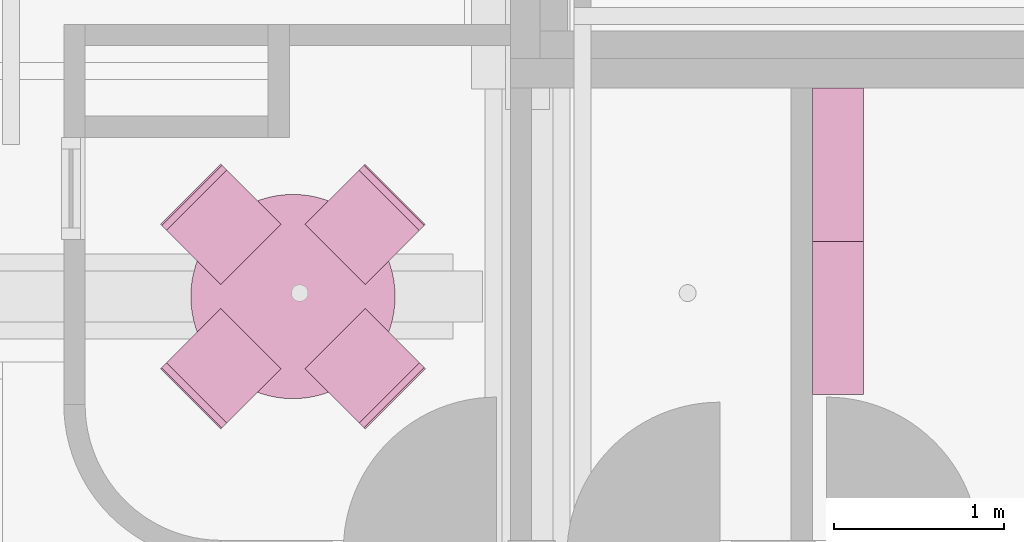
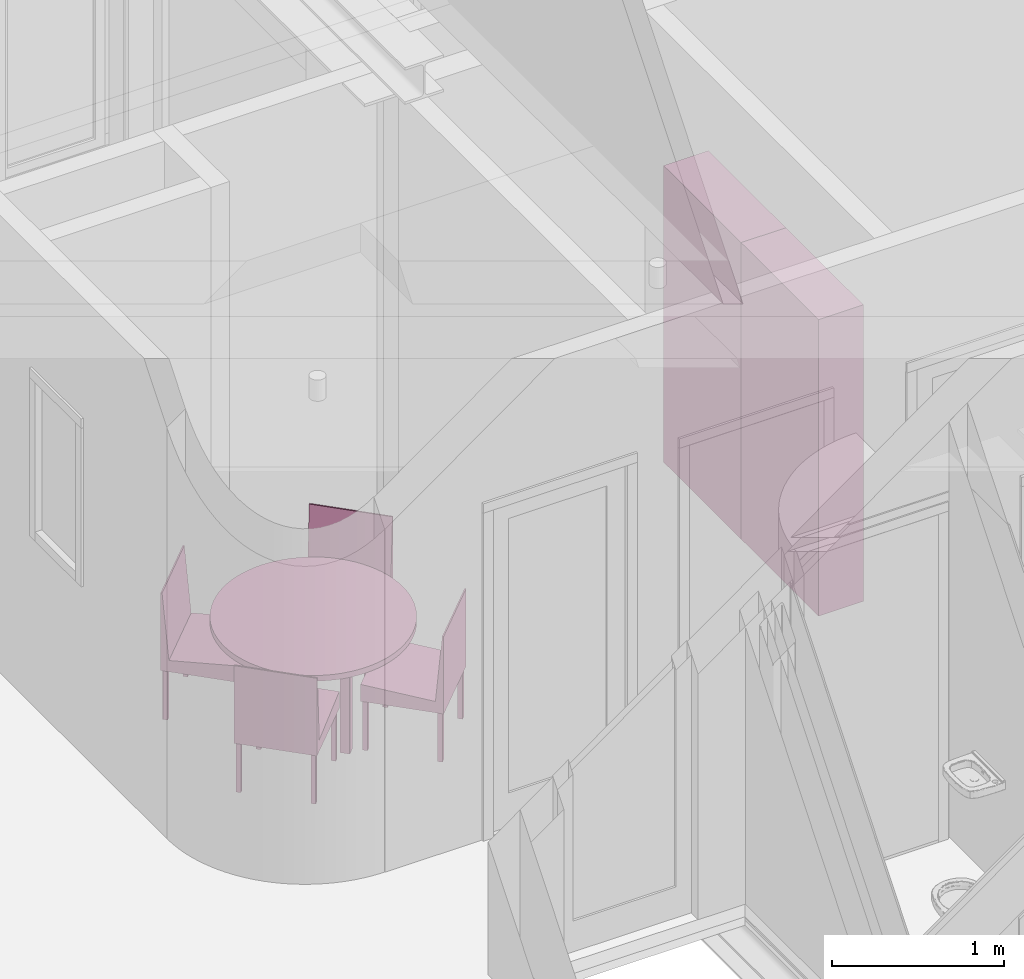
# One storey, part 92 of 128: 7 furnishings.
"""IFC2X3 building model written with IfcOpenShell, lengths in millimetres."""

from ifc_helpers import new_model, entity, si_unit, converted_unit, derived_unit, direction, frame, frame_2d, origin, origin_2d_with_axis, place, context, subcontext, project, spatial, polyline, circle_curve, parameter, trimmed, segment, composite_curve, rectangle, outline, extrude, faceted_brep, source, transform, mapped, material, type_object, type_shapes, element, save


model = new_model("IFC2X3")

# Units and contexts
model_context = context("Model", 3, precision=0.01, world=origin(), true_north=direction((6.123031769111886e-17, 1.0)))
body_context = subcontext(model_context, "Body", "Model", "MODEL_VIEW")
ifc_project = project(units=[si_unit("LENGTHUNIT", "METRE", prefix="MILLI"), si_unit("AREAUNIT", "SQUARE_METRE"), si_unit("VOLUMEUNIT", "CUBIC_METRE"), converted_unit("PLANEANGLEUNIT", "DEGREE", entity("IfcRatioMeasure", 0.017453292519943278), si_unit("PLANEANGLEUNIT", "RADIAN"), dimensions=[0, 0, 0, 0, 0, 0, 0]), si_unit("MASSUNIT", "GRAM", prefix="KILO"), derived_unit("MASSDENSITYUNIT", [(si_unit("MASSUNIT", "GRAM", prefix="KILO"), 1), (si_unit("LENGTHUNIT", "METRE"), -3)]), derived_unit("IONCONCENTRATIONUNIT", [(si_unit("MASSUNIT", "GRAM", prefix="KILO"), 1), (si_unit("LENGTHUNIT", "METRE"), -3)]), derived_unit("MOMENTOFINERTIAUNIT", [(si_unit("LENGTHUNIT", "METRE"), 4)]), si_unit("TIMEUNIT", "SECOND"), si_unit("FREQUENCYUNIT", "HERTZ"), si_unit("THERMODYNAMICTEMPERATUREUNIT", "DEGREE_CELSIUS"), derived_unit("THERMALTRANSMITTANCEUNIT", [(si_unit("MASSUNIT", "GRAM", prefix="KILO"), 1), (si_unit("THERMODYNAMICTEMPERATUREUNIT", "KELVIN"), -1), (si_unit("TIMEUNIT", "SECOND"), -3)]), derived_unit("THERMALCONDUCTANCEUNIT", [(si_unit("MASSUNIT", "GRAM", prefix="KILO"), 1), (si_unit("THERMODYNAMICTEMPERATUREUNIT", "KELVIN"), -1), (si_unit("TIMEUNIT", "SECOND"), -3), (si_unit("LENGTHUNIT", "METRE"), 1)]), derived_unit("VOLUMETRICFLOWRATEUNIT", [(si_unit("LENGTHUNIT", "METRE"), 3), (si_unit("TIMEUNIT", "SECOND"), -1)]), derived_unit("MASSFLOWRATEUNIT", [(si_unit("MASSUNIT", "GRAM", prefix="KILO"), 1), (si_unit("TIMEUNIT", "SECOND"), -1)]), derived_unit("ROTATIONALFREQUENCYUNIT", [(si_unit("TIMEUNIT", "SECOND"), -1)]), si_unit("ELECTRICCURRENTUNIT", "AMPERE"), si_unit("ELECTRICVOLTAGEUNIT", "VOLT"), si_unit("POWERUNIT", "WATT"), si_unit("FORCEUNIT", "NEWTON", prefix="KILO"), si_unit("ILLUMINANCEUNIT", "LUX"), si_unit("LUMINOUSFLUXUNIT", "LUMEN"), si_unit("LUMINOUSINTENSITYUNIT", "CANDELA"), derived_unit("USERDEFINED", [(si_unit("MASSUNIT", "GRAM", prefix="KILO"), -1), (si_unit("LENGTHUNIT", "METRE"), -2), (si_unit("TIMEUNIT", "SECOND"), 3), (si_unit("LUMINOUSFLUXUNIT", "LUMEN"), 1)]), derived_unit("USERDEFINED", [(si_unit("MASSUNIT", "GRAM", prefix="KILO"), 1), (si_unit("TIMEUNIT", "SECOND"), -3), (si_unit("LENGTHUNIT", "METRE"), 3), (si_unit("ELECTRICCURRENTUNIT", "AMPERE"), -2)]), derived_unit("SOUNDPOWERUNIT", [(si_unit("MASSUNIT", "GRAM", prefix="KILO"), 1), (si_unit("TIMEUNIT", "SECOND"), -3), (si_unit("LENGTHUNIT", "METRE"), 2)]), derived_unit("SOUNDPRESSUREUNIT", [(si_unit("MASSUNIT", "GRAM", prefix="KILO"), 1), (si_unit("LENGTHUNIT", "METRE"), -1), (si_unit("TIMEUNIT", "SECOND"), -2)]), derived_unit("LINEARVELOCITYUNIT", [(si_unit("LENGTHUNIT", "METRE"), 1), (si_unit("TIMEUNIT", "SECOND"), -1)]), si_unit("PRESSUREUNIT", "PASCAL"), derived_unit("USERDEFINED", [(si_unit("MASSUNIT", "GRAM", prefix="KILO"), 1), (si_unit("LENGTHUNIT", "METRE"), -2), (si_unit("TIMEUNIT", "SECOND"), -2)]), derived_unit("LINEARFORCEUNIT", [(si_unit("MASSUNIT", "GRAM", prefix="KILO"), 1), (si_unit("TIMEUNIT", "SECOND"), -2)]), derived_unit("PLANARFORCEUNIT", [(si_unit("MASSUNIT", "GRAM", prefix="KILO"), 1), (si_unit("LENGTHUNIT", "METRE"), -1), (si_unit("TIMEUNIT", "SECOND"), -2)]), derived_unit("SPECIFICHEATCAPACITYUNIT", [(si_unit("THERMODYNAMICTEMPERATUREUNIT", "KELVIN"), -1), (si_unit("LENGTHUNIT", "METRE"), 2), (si_unit("TIMEUNIT", "SECOND"), -2)]), derived_unit("HEATINGVALUEUNIT", [(si_unit("LENGTHUNIT", "METRE"), 2), (si_unit("TIMEUNIT", "SECOND"), -2)]), derived_unit("VAPORPERMEABILITYUNIT", [(si_unit("LENGTHUNIT", "METRE"), -1), (si_unit("TIMEUNIT", "SECOND"), 1)]), derived_unit("DYNAMICVISCOSITYUNIT", [(si_unit("MASSUNIT", "GRAM", prefix="KILO"), 1), (si_unit("TIMEUNIT", "SECOND"), -1), (si_unit("LENGTHUNIT", "METRE"), -1)]), derived_unit("THERMALEXPANSIONCOEFFICIENTUNIT", [(si_unit("THERMODYNAMICTEMPERATUREUNIT", "KELVIN"), -1)]), derived_unit("MODULUSOFELASTICITYUNIT", [(si_unit("MASSUNIT", "GRAM", prefix="KILO"), 1), (si_unit("LENGTHUNIT", "METRE"), -1), (si_unit("TIMEUNIT", "SECOND"), -2)]), derived_unit("ISOTHERMALMOISTURECAPACITYUNIT", [(si_unit("LENGTHUNIT", "METRE"), 3), (si_unit("MASSUNIT", "GRAM", prefix="KILO"), -1)]), derived_unit("MOISTUREDIFFUSIVITYUNIT", [(si_unit("TIMEUNIT", "SECOND"), -1), (si_unit("LENGTHUNIT", "METRE"), 2)])], contexts=[model_context])

# Site, building, storey, space
site_placement = place(None, frame((0.0, 300.0, 0.0)))
site = spatial("IfcSite", under=ifc_project, at=site_placement, Name="<Kadastrale nummers>", CompositionType="ELEMENT")
building_placement = place(site_placement, origin())
building = spatial("IfcBuilding", under=site, at=building_placement, CompositionType="ELEMENT")
storey_placement = place(building_placement, frame((0.0, 0.0, 3560.0000331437)))
storey = spatial("IfcBuildingStorey", under=building, at=storey_placement, Name="01 eerste verdieping", CompositionType="ELEMENT", Elevation=3560.0000331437)
space_1_placement = place(storey_placement, origin())
space_1 = spatial("IfcSpace", under=storey, at=space_1_placement, Name="1.16", CompositionType="ELEMENT", InteriorOrExteriorSpace="INTERNAL")

# Furnishings
ifc_material = material(Name="ISR_RAL 9010")
furniture_type_1 = type_object("IfcFurnitureType", Name="NLRS_82_FU_LB_kast boeken_gen_ASN:boekenkast gen bxhxd 900 x 2100 x 300", material=ifc_material)
shared_shape_1 = source(origin(), body_context, "Body", "Brep", [
    faceted_brep([(468.95565431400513, -18.0, 1620.0), (-395.04434568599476, -18.0, 1620.0), (-395.0443456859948, -268.0, 1620.0), (468.95565431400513, -268.0, 1620.0), (468.95565431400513, -18.0, 1600.0), (468.95565431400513, -268.0, 1600.0), (-395.0443456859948, -268.0, 1600.0), (-395.04434568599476, -18.0, 1600.0)], [[[0, 1, 2, 3]], [[4, 5, 6, 7]], [[1, 0, 4, 7]], [[2, 1, 7, 6]], [[3, 2, 6, 5]], [[0, 3, 5, 4]]]),
    faceted_brep([(468.95565431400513, -18.0, 1200.0), (-395.04434568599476, -18.0, 1200.0), (-395.0443456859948, -268.0, 1200.0), (468.95565431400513, -268.0, 1200.0), (468.95565431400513, -18.0, 1180.0), (468.95565431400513, -268.0, 1180.0), (-395.0443456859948, -268.0, 1180.0), (-395.04434568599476, -18.0, 1180.0)], [[[0, 1, 2, 3]], [[4, 5, 6, 7]], [[1, 0, 4, 7]], [[2, 1, 7, 6]], [[3, 2, 6, 5]], [[0, 3, 5, 4]]]),
    faceted_brep([(468.95565431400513, -18.0, 400.0), (-395.0443456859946, -18.0, 400.0), (-395.0443456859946, -268.0, 400.0), (468.95565431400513, -268.0, 400.0), (468.95565431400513, -18.0, 380.0), (468.95565431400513, -268.0, 380.0), (-395.0443456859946, -268.0, 380.0), (-395.0443456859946, -18.0, 380.0)], [[[0, 1, 2, 3]], [[4, 5, 6, 7]], [[1, 0, 4, 7]], [[2, 1, 7, 6]], [[3, 2, 6, 5]], [[0, 3, 5, 4]]]),
    faceted_brep([(468.95565431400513, -18.0, 800.0), (-395.04434568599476, -18.0, 800.0), (-395.0443456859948, -268.0, 800.0), (468.95565431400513, -268.0, 800.0), (468.95565431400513, -18.0, 780.0), (468.95565431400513, -268.0, 780.0), (-395.0443456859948, -268.0, 780.0), (-395.04434568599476, -18.0, 780.0)], [[[0, 1, 2, 3]], [[4, 5, 6, 7]], [[1, 0, 4, 7]], [[2, 1, 7, 6]], [[3, 2, 6, 5]], [[0, 3, 5, 4]]]),
    faceted_brep([(486.9556543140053, 0.0, 2100.0), (-413.04434568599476, 0.0, 2100.0), (-413.0443456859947, -300.0, 2100.0), (486.9556543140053, -300.0, 2100.0), (486.9556543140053, 0.0, 0.0), (486.9556543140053, -300.0, 0.0), (-413.0443456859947, -300.0, 0.0), (-413.04434568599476, 0.0, 0.0), (-395.04434568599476, -300.0, 2082.0), (468.95565431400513, -300.0, 2082.0), (468.95565431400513, -300.0, 68.0), (-395.0443456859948, -300.0, 68.0), (468.95565431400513, -18.0, 2082.0), (-395.04434568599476, -18.0, 2082.0), (468.95565431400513, -18.0, 68.0), (-395.04434568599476, -18.0, 68.0)], [[[0, 1, 2, 3]], [[4, 5, 6, 7]], [[1, 0, 4, 7]], [[2, 1, 7, 6]], [[3, 2, 6, 5], [8, 9, 10, 11]], [[0, 3, 5, 4]], [[12, 9, 8, 13]], [[14, 15, 11, 10]], [[12, 13, 15, 14]], [[13, 8, 11, 15]], [[9, 12, 14, 10]]]),
])
type_shapes(furniture_type_1, [shared_shape_1])
for number, where, z_axis, x_axis in (
    (1, (43075.0, 45138.04434568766, 90.00000187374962), (0.0, 0.0, 1.0), (0.0, 1.0, 0.0)),
    (2, (43075.0, 46038.04434568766, 90.00000187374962), (0.0, 0.0, 1.0), (0.0, 1.0, 0.0)),
):
    element("IfcFurnishingElement", number, at=place(space_1_placement, frame(where, z_axis=z_axis, x_axis=x_axis)), inside=space_1, type_object=furniture_type_1, material=ifc_material, Name="NLRS_82_FU_LB_kast boeken_gen_ASN:boekenkast gen bxhxd 900 x 2100 x 300", ObjectType="NLRS_82_FU_LB_kast boeken_gen_ASN:boekenkast gen bxhxd 900 x 2100 x 300", context=body_context, shape_type="MappedRepresentation", body=[
        mapped(shared_shape_1, transform((0.0, 0.0, 0.0), scale=1.0)),
    ])

# Space
space_2_placement = place(storey_placement, origin())
space_2 = spatial("IfcSpace", under=storey, at=space_2_placement, Name="1.14", CompositionType="ELEMENT", InteriorOrExteriorSpace="INTERNAL")

# Furnishings
furniture_type_2 = type_object("IfcFurnitureType", Name="NLRS_82_FU_LB_tafel 1_gen_ASN:eettafel rond gen d 1200", material=ifc_material)
shared_shape_2 = source(origin(), body_context, "Body", "SweptSolid", [
    extrude(outline(composite_curve([segment(polyline([(-1.0, -600.0), (1.0, -600.0)]), True, "CONTINUOUS"), segment(trimmed(circle_curve(frame_2d((1.0, -1.0), x_axis=(1.0, 0.0)), 599.0), [parameter(269.99999999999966)], [parameter(359.99999999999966)], True, "PARAMETER"), True, "CONTINUOUS"), segment(polyline([(600.0, -1.0), (600.0, 1.0)]), True, "CONTINUOUS"), segment(trimmed(circle_curve(frame_2d((1.0, 1.0), x_axis=(1.0, 0.0)), 599.0), [parameter(359.9999999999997)], [parameter(89.99999999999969)], True, "PARAMETER"), True, "CONTINUOUS"), segment(polyline([(1.0, 600.0), (-1.0, 600.0)]), True, "CONTINUOUS"), segment(trimmed(circle_curve(frame_2d((-1.0, 1.0), x_axis=(1.0, 0.0)), 599.0), [parameter(89.99999999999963)], [parameter(179.99999999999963)], True, "PARAMETER"), True, "CONTINUOUS"), segment(polyline([(-600.0, 1.0), (-600.0, -1.0)]), True, "CONTINUOUS"), segment(trimmed(circle_curve(frame_2d((-1.0, -1.0), x_axis=(1.0, 0.0)), 599.0), [parameter(180.0)], [parameter(269.99999999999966)], True, "PARAMETER"), True, "CONTINUOUS")], self_intersect=False)), frame((57.87769239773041, 12.97177785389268, 680.0), z_axis=(0.0, 0.0, 1.0), x_axis=(-1.0, 0.0, 0.0)), (0.0, 0.0, 1.0), 39.9999999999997),
    extrude(outline(composite_curve([segment(polyline([(-28.0, -30.0), (28.0, -30.0)]), True, "CONTINUOUS"), segment(trimmed(circle_curve(frame_2d((28.0, -28.0), x_axis=(-1.0, 0.0)), 2.0), [parameter(90.00000000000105)], [parameter(180.00000000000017)], True, "PARAMETER"), True, "CONTINUOUS"), segment(polyline([(30.0, -28.0), (30.0, 28.0)]), True, "CONTINUOUS"), segment(trimmed(circle_curve(frame_2d((28.0, 28.0), x_axis=(-1.0, 0.0)), 2.0), [parameter(180.00000000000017)], [parameter(269.9999999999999)], True, "PARAMETER"), True, "CONTINUOUS"), segment(polyline([(28.0, 30.0), (-28.0, 30.0)]), True, "CONTINUOUS"), segment(trimmed(circle_curve(frame_2d((-28.0, 28.0), x_axis=(-1.0, 0.0)), 2.0), [parameter(269.9999999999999)], [parameter(0.0)], True, "PARAMETER"), True, "CONTINUOUS"), segment(polyline([(-30.0, 28.0), (-30.0, -28.0)]), True, "CONTINUOUS"), segment(trimmed(circle_curve(frame_2d((-28.0, -28.0), x_axis=(-1.0, 0.0)), 2.0), [parameter(0.0)], [parameter(90.00000000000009)], True, "PARAMETER"), True, "CONTINUOUS")], self_intersect=False)), frame((327.87769239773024, 282.97177785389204, 0.0), z_axis=(0.0, 0.0, 1.0), x_axis=(-1.0, 0.0, 0.0)), (0.0, 0.0, 1.0), 679.9999999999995),
    extrude(outline(composite_curve([segment(polyline([(-28.0, -30.0), (28.0, -30.0)]), True, "CONTINUOUS"), segment(trimmed(circle_curve(frame_2d((28.0, -28.0), x_axis=(-1.0, 0.0)), 2.0), [parameter(90.00000000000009)], [parameter(180.00000000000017)], True, "PARAMETER"), True, "CONTINUOUS"), segment(polyline([(30.0, -28.0), (30.0, 28.0)]), True, "CONTINUOUS"), segment(trimmed(circle_curve(frame_2d((28.0, 28.0), x_axis=(-1.0, 0.0)), 2.0), [parameter(180.00000000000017)], [parameter(269.9999999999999)], True, "PARAMETER"), True, "CONTINUOUS"), segment(polyline([(28.0, 30.0), (-28.0, 30.0)]), True, "CONTINUOUS"), segment(trimmed(circle_curve(frame_2d((-28.0, 28.0), x_axis=(-1.0, 0.0)), 2.0), [parameter(269.9999999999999)], [parameter(0.0)], True, "PARAMETER"), True, "CONTINUOUS"), segment(polyline([(-30.0, 28.0), (-30.0, -28.0)]), True, "CONTINUOUS"), segment(trimmed(circle_curve(frame_2d((-28.0, -28.0), x_axis=(-1.0, 0.0)), 2.0), [parameter(0.0)], [parameter(90.00000000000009)], True, "PARAMETER"), True, "CONTINUOUS")], self_intersect=False)), frame((-212.1223076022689, 282.9717778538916, 0.0), z_axis=(0.0, 0.0, 1.0), x_axis=(-1.0, 0.0, 0.0)), (0.0, 0.0, 1.0), 679.9999999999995),
    extrude(outline(composite_curve([segment(polyline([(-28.0, -30.0), (28.0, -30.0)]), True, "CONTINUOUS"), segment(trimmed(circle_curve(frame_2d((28.0, -28.0), x_axis=(-1.0, 0.0)), 2.0), [parameter(90.00000000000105)], [parameter(180.00000000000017)], True, "PARAMETER"), True, "CONTINUOUS"), segment(polyline([(30.0, -28.0), (30.0, 28.0)]), True, "CONTINUOUS"), segment(trimmed(circle_curve(frame_2d((28.0, 28.0), x_axis=(-1.0, 0.0)), 2.0), [parameter(180.00000000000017)], [parameter(269.9999999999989)], True, "PARAMETER"), True, "CONTINUOUS"), segment(polyline([(28.0, 30.0), (-28.0, 30.0)]), True, "CONTINUOUS"), segment(trimmed(circle_curve(frame_2d((-28.0, 28.0), x_axis=(-1.0, 0.0)), 2.0), [parameter(269.9999999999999)], [parameter(0.0)], True, "PARAMETER"), True, "CONTINUOUS"), segment(polyline([(-30.0, 28.0), (-30.0, -28.0)]), True, "CONTINUOUS"), segment(trimmed(circle_curve(frame_2d((-28.0, -28.0), x_axis=(-1.0, 0.0)), 2.0), [parameter(0.0)], [parameter(90.00000000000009)], True, "PARAMETER"), True, "CONTINUOUS")], self_intersect=False)), frame((327.87769239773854, -257.0282221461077, 0.0), z_axis=(0.0, 0.0, 1.0), x_axis=(-1.0, 0.0, 0.0)), (0.0, 0.0, 1.0), 679.9999999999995),
    extrude(outline(composite_curve([segment(polyline([(-28.0, -30.0), (28.0, -30.0)]), True, "CONTINUOUS"), segment(trimmed(circle_curve(frame_2d((28.0, -28.0), x_axis=(-1.0, 0.0)), 2.0), [parameter(90.00000000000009)], [parameter(179.9999999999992)], True, "PARAMETER"), True, "CONTINUOUS"), segment(polyline([(30.0, -28.0), (30.0, 28.0)]), True, "CONTINUOUS"), segment(trimmed(circle_curve(frame_2d((28.0, 28.0), x_axis=(-1.0, 0.0)), 2.0), [parameter(180.00000000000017)], [parameter(269.9999999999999)], True, "PARAMETER"), True, "CONTINUOUS"), segment(polyline([(28.0, 30.0), (-28.0, 30.0)]), True, "CONTINUOUS"), segment(trimmed(circle_curve(frame_2d((-28.0, 28.0), x_axis=(-1.0, 0.0)), 2.0), [parameter(269.9999999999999)], [parameter(359.99999999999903)], True, "PARAMETER"), True, "CONTINUOUS"), segment(polyline([(-30.0, 28.0), (-30.0, -28.0)]), True, "CONTINUOUS"), segment(trimmed(circle_curve(frame_2d((-28.0, -28.0), x_axis=(-1.0, 0.0)), 2.0), [parameter(0.0)], [parameter(90.00000000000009)], True, "PARAMETER"), True, "CONTINUOUS")], self_intersect=False)), frame((-212.12230760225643, -257.02822214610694, 0.0), z_axis=(0.0, 0.0, 1.0), x_axis=(-1.0, 0.0, 0.0)), (0.0, 0.0, 1.0), 679.9999999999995),
    extrude(rectangle(XDim=479.99999999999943, YDim=55.99999999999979, at=frame_2d((1.4210854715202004e-14, 3.375077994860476e-14), x_axis=(1.0, 0.0))), frame((57.87769239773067, 282.9717778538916, 650.0)), (0.0, 0.0, 1.0), 30.000000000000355),
    extrude(rectangle(XDim=480.0000000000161, YDim=55.99999999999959, at=origin_2d_with_axis()), frame((57.87769239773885, -257.0282221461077, 650.0)), (0.0, 0.0, 1.0), 30.000000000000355),
    extrude(rectangle(XDim=479.99999999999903, YDim=55.99999999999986, at=origin_2d_with_axis()), frame((-212.12230760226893, 12.971777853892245, 650.0), z_axis=(0.0, 0.0, 1.0), x_axis=(0.0, -1.0, 0.0)), (0.0, 0.0, 1.0), 30.000000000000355),
    extrude(rectangle(XDim=480.0000000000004, YDim=55.999999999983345, at=origin_2d_with_axis()), frame((327.87769239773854, 12.971777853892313, 650.0), z_axis=(0.0, 0.0, 1.0), x_axis=(0.0, -1.0, 0.0)), (0.0, 0.0, 1.0), 30.000000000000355),
])
type_shapes(furniture_type_2, [shared_shape_2])
furnishing_placement = place(space_2_placement, frame((39989.969530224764, 45249.90185914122, 90.00000187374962), z_axis=(0.0, 0.0, 1.0), x_axis=(0.7071067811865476, 0.7071067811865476, 0.0)))
element("IfcFurnishingElement", 3, at=furnishing_placement, inside=space_2, type_object=furniture_type_2, material=ifc_material, Name="NLRS_82_FU_LB_tafel 1_gen_ASN:eettafel rond gen d 1200", ObjectType="NLRS_82_FU_LB_tafel 1_gen_ASN:eettafel rond gen d 1200", context=body_context, shape_type="MappedRepresentation", body=[
    mapped(shared_shape_2, transform((0.0, 0.0, 0.0), scale=1.0)),
])
furniture_type_3 = type_object("IfcFurnitureType", Name="NLRS_82_FU_LB_zitmeubel_gen_ASN:stoel", material=ifc_material)
shared_shape_3 = source(origin(), body_context, "Body", "SweptSolid", [
    extrude(outline(polyline([(-176.4800546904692, -333.4383502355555), (-167.5997265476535, -333.4383502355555), (-126.48005469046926, 136.5616497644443), (323.5199453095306, 97.19175117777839), (323.51994530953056, 216.56164976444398), (-176.4800546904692, 216.56164976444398), (-176.4800546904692, -333.4383502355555)])), frame((-192.12230760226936, 86.49172316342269, 566.5616497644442), z_axis=(1.0, 0.0, 0.0), x_axis=(0.0, -1.0, 0.0)), (0.0, 0.0, 1.0), 499.9999999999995),
    extrude(outline(composite_curve([segment(polyline([(-14.0, -15.0), (14.0, -15.0)]), True, "CONTINUOUS"), segment(trimmed(circle_curve(frame_2d((14.0, -14.0), x_axis=(-1.0, 0.0)), 1.0), [parameter(90.00000000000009)], [parameter(180.00000000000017)], True, "PARAMETER"), True, "CONTINUOUS"), segment(polyline([(15.0, -14.0), (15.0, 14.0)]), True, "CONTINUOUS"), segment(trimmed(circle_curve(frame_2d((14.0, 14.0), x_axis=(-1.0, 0.0)), 1.0), [parameter(180.00000000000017)], [parameter(270.0000000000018)], True, "PARAMETER"), True, "CONTINUOUS"), segment(polyline([(14.0, 15.0), (-14.0, 15.0)]), True, "CONTINUOUS"), segment(trimmed(circle_curve(frame_2d((-14.0, 14.0), x_axis=(-1.0, 0.0)), 1.0), [parameter(269.9999999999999)], [parameter(0.0)], True, "PARAMETER"), True, "CONTINUOUS"), segment(polyline([(-15.0, 14.0), (-15.0, -14.0)]), True, "CONTINUOUS"), segment(trimmed(circle_curve(frame_2d((-14.0, -14.0), x_axis=(-1.0, 0.0)), 1.0), [parameter(0.0)], [parameter(90.00000000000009)], True, "PARAMETER"), True, "CONTINUOUS")], self_intersect=False)), frame((282.87769239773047, 237.97177785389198, 0.0), z_axis=(0.0, 0.0, 1.0), x_axis=(-1.0, 0.0, 0.0)), (0.0, 0.0, 1.0), 350.00000000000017),
    extrude(outline(composite_curve([segment(polyline([(-14.0, -15.0), (14.0, -15.0)]), True, "CONTINUOUS"), segment(trimmed(circle_curve(frame_2d((14.0, -14.0), x_axis=(-1.0, 0.0)), 1.0), [parameter(90.00000000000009)], [parameter(180.00000000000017)], True, "PARAMETER"), True, "CONTINUOUS"), segment(polyline([(15.0, -14.0), (15.0, 14.0)]), True, "CONTINUOUS"), segment(trimmed(circle_curve(frame_2d((14.0, 14.0), x_axis=(-1.0, 0.0)), 1.0), [parameter(180.00000000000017)], [parameter(269.9999999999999)], True, "PARAMETER"), True, "CONTINUOUS"), segment(polyline([(14.0, 15.0), (-14.0, 15.0)]), True, "CONTINUOUS"), segment(trimmed(circle_curve(frame_2d((-14.0, 14.0), x_axis=(-1.0, 0.0)), 1.0), [parameter(269.9999999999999)], [parameter(0.0)], True, "PARAMETER"), True, "CONTINUOUS"), segment(polyline([(-15.0, 14.0), (-15.0, -14.0)]), True, "CONTINUOUS"), segment(trimmed(circle_curve(frame_2d((-14.0, -14.0), x_axis=(-1.0, 0.0)), 1.0), [parameter(0.0)], [parameter(90.00000000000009)], True, "PARAMETER"), True, "CONTINUOUS")], self_intersect=False)), frame((-167.12230760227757, 237.97177785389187, 0.0), z_axis=(0.0, 0.0, 1.0), x_axis=(-1.0, 0.0, 0.0)), (0.0, 0.0, 1.0), 350.00000000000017),
    extrude(outline(composite_curve([segment(polyline([(-14.0, -15.0), (14.0, -15.0)]), True, "CONTINUOUS"), segment(trimmed(circle_curve(frame_2d((14.0, -14.0), x_axis=(-1.0, 0.0)), 1.0), [parameter(90.00000000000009)], [parameter(179.99999999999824)], True, "PARAMETER"), True, "CONTINUOUS"), segment(polyline([(15.0, -14.0), (15.0, 14.0)]), True, "CONTINUOUS"), segment(trimmed(circle_curve(frame_2d((14.0, 14.0), x_axis=(-1.0, 0.0)), 1.0), [parameter(179.99999999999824)], [parameter(269.9999999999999)], True, "PARAMETER"), True, "CONTINUOUS"), segment(polyline([(14.0, 15.0), (-14.0, 15.0)]), True, "CONTINUOUS"), segment(trimmed(circle_curve(frame_2d((-14.0, 14.0), x_axis=(-1.0, 0.0)), 1.0), [parameter(269.9999999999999)], [parameter(1.93377724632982e-12)], True, "PARAMETER"), True, "CONTINUOUS"), segment(polyline([(-15.0, 14.0), (-15.0, -14.0)]), True, "CONTINUOUS"), segment(trimmed(circle_curve(frame_2d((-14.0, -14.0), x_axis=(-1.0, 0.0)), 1.0), [parameter(0.0)], [parameter(90.00000000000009)], True, "PARAMETER"), True, "CONTINUOUS")], self_intersect=False)), frame((-167.12230760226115, -212.02822214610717, 0.0), z_axis=(0.0, 0.0, 1.0), x_axis=(-1.0, 0.0, 0.0)), (0.0, 0.0, 1.0), 350.00000000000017),
    extrude(outline(composite_curve([segment(polyline([(-14.0, -15.0), (14.0, -15.0)]), True, "CONTINUOUS"), segment(trimmed(circle_curve(frame_2d((14.0, -14.0), x_axis=(-1.0, 0.0)), 1.0), [parameter(89.99999999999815)], [parameter(179.99999999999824)], True, "PARAMETER"), True, "CONTINUOUS"), segment(polyline([(15.0, -14.0), (15.0, 14.0)]), True, "CONTINUOUS"), segment(trimmed(circle_curve(frame_2d((14.0, 14.0), x_axis=(-1.0, 0.0)), 1.0), [parameter(179.99999999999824)], [parameter(270.0000000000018)], True, "PARAMETER"), True, "CONTINUOUS"), segment(polyline([(14.0, 15.0), (-14.0, 15.0)]), True, "CONTINUOUS"), segment(trimmed(circle_curve(frame_2d((-14.0, 14.0), x_axis=(-1.0, 0.0)), 1.0), [parameter(269.9999999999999)], [parameter(1.93377724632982e-12)], True, "PARAMETER"), True, "CONTINUOUS"), segment(polyline([(-15.0, 14.0), (-15.0, -14.0)]), True, "CONTINUOUS"), segment(trimmed(circle_curve(frame_2d((-14.0, -14.0), x_axis=(-1.0, 0.0)), 1.0), [parameter(1.93377724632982e-12)], [parameter(90.00000000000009)], True, "PARAMETER"), True, "CONTINUOUS")], self_intersect=False)), frame((282.8776923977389, -212.0282221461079, 0.0), z_axis=(0.0, 0.0, 1.0), x_axis=(-1.0, 0.0, 0.0)), (0.0, 0.0, 1.0), 350.00000000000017),
])
type_shapes(furniture_type_3, [shared_shape_3])
for number, where, z_axis, x_axis in (
    (4, (40478.03304553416, 44925.54117892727, 90.00000187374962), (0.0, 0.0, 1.0), (-0.7071067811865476, -0.7071067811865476, 0.0)),
    (5, (39565.41256829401, 45674.45882107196, 90.00000187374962), (0.0, 0.0, 1.0), (0.7071067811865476, 0.7071067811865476, 0.0)),
):
    element("IfcFurnishingElement", number, at=place(space_2_placement, frame(where, z_axis=z_axis, x_axis=x_axis)), inside=space_2, type_object=furniture_type_3, material=ifc_material, Name="NLRS_82_FU_LB_zitmeubel_gen_ASN:stoel", ObjectType="NLRS_82_FU_LB_zitmeubel_gen_ASN:stoel", context=body_context, shape_type="MappedRepresentation", body=[
        mapped(shared_shape_3, transform((0.0, 0.0, 0.0), scale=1.0)),
    ])
furniture_type_4 = type_object("IfcFurnitureType", Name="NLRS_82_FU_LB_zitmeubel_gen_ASN:stoel", material=ifc_material)
shared_shape_4 = source(origin(), body_context, "Body", "SweptSolid", [
    extrude(outline(polyline([(-333.4383502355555, -176.4800546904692), (216.56164976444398, -176.4800546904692), (216.56164976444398, 323.51994530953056), (97.19175117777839, 323.51994530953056), (136.5616497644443, -126.48005469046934), (-333.4383502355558, -167.5997265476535), (-333.4383502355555, -176.4800546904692)])), frame((-192.12230760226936, -86.49172316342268, 566.5616497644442), z_axis=(1.0, 0.0, 0.0), x_axis=(0.0, 0.0, -1.0)), (0.0, 0.0, 1.0), 499.9999999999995),
    extrude(outline(composite_curve([segment(trimmed(circle_curve(frame_2d((14.0, -14.0), x_axis=(1.0, 0.0)), 1.0), [parameter(269.9999999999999)], [parameter(0.0)], True, "PARAMETER"), True, "CONTINUOUS"), segment(polyline([(15.0, -14.0), (15.0, 14.0)]), True, "CONTINUOUS"), segment(trimmed(circle_curve(frame_2d((14.0, 14.0), x_axis=(1.0, 0.0)), 1.0), [parameter(0.0)], [parameter(90.00000000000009)], True, "PARAMETER"), True, "CONTINUOUS"), segment(polyline([(14.0, 15.0), (-14.0, 15.0)]), True, "CONTINUOUS"), segment(trimmed(circle_curve(frame_2d((-14.0, 14.0), x_axis=(1.0, 0.0)), 1.0), [parameter(89.99999999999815)], [parameter(179.99999999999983)], True, "PARAMETER"), True, "CONTINUOUS"), segment(polyline([(-15.0, 14.0), (-15.0, -14.0)]), True, "CONTINUOUS"), segment(trimmed(circle_curve(frame_2d((-14.0, -14.0), x_axis=(1.0, 0.0)), 1.0), [parameter(179.99999999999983)], [parameter(269.9999999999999)], True, "PARAMETER"), True, "CONTINUOUS"), segment(polyline([(-14.0, -15.0), (14.0, -15.0)]), True, "CONTINUOUS")], self_intersect=False)), frame((282.8776923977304, -237.97177785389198, 0.0)), (0.0, 0.0, 1.0), 350.00000000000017),
    extrude(outline(composite_curve([segment(trimmed(circle_curve(frame_2d((14.0, -14.0), x_axis=(1.0, 0.0)), 1.0), [parameter(269.9999999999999)], [parameter(0.0)], True, "PARAMETER"), True, "CONTINUOUS"), segment(polyline([(15.0, -14.0), (15.0, 14.0)]), True, "CONTINUOUS"), segment(trimmed(circle_curve(frame_2d((14.0, 14.0), x_axis=(1.0, 0.0)), 1.0), [parameter(0.0)], [parameter(90.00000000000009)], True, "PARAMETER"), True, "CONTINUOUS"), segment(polyline([(14.0, 15.0), (-14.0, 15.0)]), True, "CONTINUOUS"), segment(trimmed(circle_curve(frame_2d((-14.0, 14.0), x_axis=(1.0, 0.0)), 1.0), [parameter(90.00000000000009)], [parameter(179.99999999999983)], True, "PARAMETER"), True, "CONTINUOUS"), segment(polyline([(-15.0, 14.0), (-15.0, -14.0)]), True, "CONTINUOUS"), segment(trimmed(circle_curve(frame_2d((-14.0, -14.0), x_axis=(1.0, 0.0)), 1.0), [parameter(179.99999999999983)], [parameter(269.9999999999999)], True, "PARAMETER"), True, "CONTINUOUS"), segment(polyline([(-14.0, -15.0), (14.0, -15.0)]), True, "CONTINUOUS")], self_intersect=False)), frame((-167.12230760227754, -237.9717778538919, 0.0)), (0.0, 0.0, 1.0), 350.00000000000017),
    extrude(outline(composite_curve([segment(trimmed(circle_curve(frame_2d((14.0, -14.0), x_axis=(1.0, 0.0)), 1.0), [parameter(269.9999999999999)], [parameter(0.0)], True, "PARAMETER"), True, "CONTINUOUS"), segment(polyline([(15.0, -14.0), (15.0, 14.0)]), True, "CONTINUOUS"), segment(trimmed(circle_curve(frame_2d((14.0, 14.0), x_axis=(1.0, 0.0)), 1.0), [parameter(359.99999999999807)], [parameter(90.00000000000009)], True, "PARAMETER"), True, "CONTINUOUS"), segment(polyline([(14.0, 15.0), (-14.0, 15.0)]), True, "CONTINUOUS"), segment(trimmed(circle_curve(frame_2d((-14.0, 14.0), x_axis=(1.0, 0.0)), 1.0), [parameter(90.00000000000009)], [parameter(180.00000000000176)], True, "PARAMETER"), True, "CONTINUOUS"), segment(polyline([(-15.0, 14.0), (-15.0, -14.0)]), True, "CONTINUOUS"), segment(trimmed(circle_curve(frame_2d((-14.0, -14.0), x_axis=(1.0, 0.0)), 1.0), [parameter(180.00000000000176)], [parameter(269.9999999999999)], True, "PARAMETER"), True, "CONTINUOUS"), segment(polyline([(-14.0, -15.0), (14.0, -15.0)]), True, "CONTINUOUS")], self_intersect=False)), frame((-167.12230760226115, 212.0282221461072, 0.0)), (0.0, 0.0, 1.0), 350.00000000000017),
    extrude(outline(composite_curve([segment(trimmed(circle_curve(frame_2d((14.0, -14.0), x_axis=(1.0, 0.0)), 1.0), [parameter(269.9999999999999)], [parameter(359.99999999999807)], True, "PARAMETER"), True, "CONTINUOUS"), segment(polyline([(15.0, -14.0), (15.0, 14.0)]), True, "CONTINUOUS"), segment(trimmed(circle_curve(frame_2d((14.0, 14.0), x_axis=(1.0, 0.0)), 1.0), [parameter(359.99999999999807)], [parameter(90.00000000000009)], True, "PARAMETER"), True, "CONTINUOUS"), segment(polyline([(14.0, 15.0), (-14.0, 15.0)]), True, "CONTINUOUS"), segment(trimmed(circle_curve(frame_2d((-14.0, 14.0), x_axis=(1.0, 0.0)), 1.0), [parameter(89.99999999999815)], [parameter(180.00000000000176)], True, "PARAMETER"), True, "CONTINUOUS"), segment(polyline([(-15.0, 14.0), (-15.0, -14.0)]), True, "CONTINUOUS"), segment(trimmed(circle_curve(frame_2d((-14.0, -14.0), x_axis=(1.0, 0.0)), 1.0), [parameter(180.00000000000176)], [parameter(270.0000000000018)], True, "PARAMETER"), True, "CONTINUOUS"), segment(polyline([(-14.0, -15.0), (14.0, -15.0)]), True, "CONTINUOUS")], self_intersect=False)), frame((282.8776923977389, 212.02822214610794, 0.0)), (0.0, 0.0, 1.0), 350.00000000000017),
])
type_shapes(furniture_type_4, [shared_shape_4])
for number, where, z_axis, x_axis in (
    (6, (39565.41256829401, 44925.54117892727, 90.00000187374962), (0.0, 0.0, 1.0), (0.7071067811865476, -0.7071067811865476, 0.0)),
    (7, (40478.03304553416, 45674.45882107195, 90.00000187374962), (0.0, 0.0, 1.0), (-0.7071067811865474, 0.7071067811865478, 0.0)),
):
    element("IfcFurnishingElement", number, at=place(space_2_placement, frame(where, z_axis=z_axis, x_axis=x_axis)), inside=space_2, type_object=furniture_type_4, material=ifc_material, Name="NLRS_82_FU_LB_zitmeubel_gen_ASN:stoel", ObjectType="NLRS_82_FU_LB_zitmeubel_gen_ASN:stoel", context=body_context, shape_type="MappedRepresentation", body=[
        mapped(shared_shape_4, transform((0.0, 0.0, 0.0), scale=1.0)),
    ])

save(model, "model.ifc")
